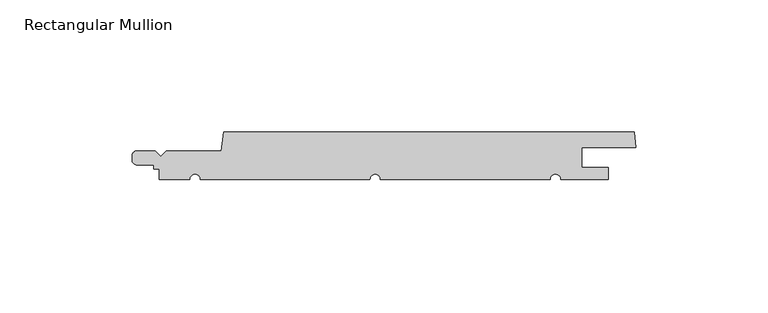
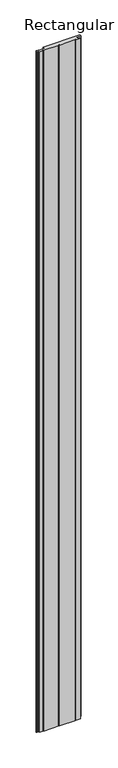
"""IFC4 building model written with IfcOpenShell, lengths in millimetres: member geometry, Rectangular Mullion : Cladding_Timber_Modinex_Channel_170_AlaskanYellowCedar."""

from ifc_helpers import new_model, si_unit, point, frame, frame_2d, origin, place, context, project, spatial, polyline, circle_curve, trimmed, segment, composite_curve, outline, extrude, source, transform, mapped, element, save


def rectangular_mullion_f8c5476f(model_context):
    return source(origin(), model_context, "Body", "SweptSolid", [
        extrude(outline(composite_curve([segment(polyline([(2.6253508, 10.8203707), (23.4689814, 10.8203707), (24.4780125, 18.0), (179.781259, 18.0), (180.5153107, 12.0216293), (160.0, 12.0216293), (160.0, 4.5527021), (170.0, 4.5527021), (170.0, 0.0), (152.0, 0.0)]), True, "CONTINUOUS"), segment(trimmed(circle_curve(frame_2d((150.0, 0.0)), 2.0), [point((152.0, 0.0))], [point((148.0, 0.0))], True, "CARTESIAN"), True, "CONTINUOUS"), segment(polyline([(148.0, 0.0), (83.7560899, 0.0)]), True, "CONTINUOUS"), segment(trimmed(circle_curve(frame_2d((81.7812882, 0.0)), 1.9748017), [point((83.7560899, 0.0))], [point((79.8064865, 0.0))], True, "CARTESIAN"), True, "CONTINUOUS"), segment(polyline([(79.8064865, 0.0), (15.5373781, 0.0)]), True, "CONTINUOUS"), segment(trimmed(circle_curve(frame_2d((13.5625764, 0.0)), 1.9748017), [point((15.5373781, 0.0))], [point((11.5877747, 0.0))], True, "CARTESIAN"), True, "CONTINUOUS"), segment(polyline([(11.5877747, 0.0), (0.0, 0.0), (0.0, 3.9720296), (-2.005786, 3.9720296), (-2.005786, 5.4241103), (-8.3313367, 5.4241103)]), True, "CONTINUOUS"), segment(trimmed(circle_curve(frame_2d((-8.3313367, 7.388134)), 1.9640237), [point((-8.3313367, 5.4241103))], [point((-10.2953604, 7.388134))], False, "CARTESIAN"), True, "CONTINUOUS"), segment(polyline([(-10.2953604, 7.388134), (-10.2953604, 8.803382)]), True, "CONTINUOUS"), segment(trimmed(circle_curve(frame_2d((-8.2783718, 8.803382)), 2.0169887), [point((-10.2953604, 8.803382))], [point((-8.2783718, 10.8203707))], False, "CARTESIAN"), True, "CONTINUOUS"), segment(polyline([(-8.2783718, 10.8203707), (-1.5484934, 10.8203707), (0.5384287, 8.7334486), (2.6253508, 10.8203707)]), True, "CONTINUOUS")], self_intersect=False)), frame((0.0, 0.0, -3000.0), z_axis=(0.0, 0.0, 1.0), x_axis=(1.0, 0.0, 0.0)), (0.0, 0.0, 1.0), 3000.0),
    ])


if __name__ == "__main__":
    model = new_model("IFC4")
    model_context = context("Model", 3, world=origin())
    ifc_project = project(units=[si_unit("LENGTHUNIT", "METRE", prefix="MILLI")], contexts=[model_context])
    site = spatial("IfcSite", under=ifc_project)
    building = spatial("IfcBuilding", under=site)
    placement = place(None, origin())
    rectangular_mullion_shape = rectangular_mullion_f8c5476f(model_context)
    element("IfcMember", 1, ObjectType="Rectangular Mullion : Cladding_Timber_Modinex_Channel_170_AlaskanYellowCedar", at=placement, inside=building, context=model_context, shape_type="MappedRepresentation", body=[
        mapped(rectangular_mullion_shape, transform((0.0, 0.0, 0.0), x_axis=(1.0, 0.0, 0.0), y_axis=(0.0, 1.0, 0.0), z_axis=(0.0, 0.0, 1.0))),
    ])
    save(model, "model.ifc")
